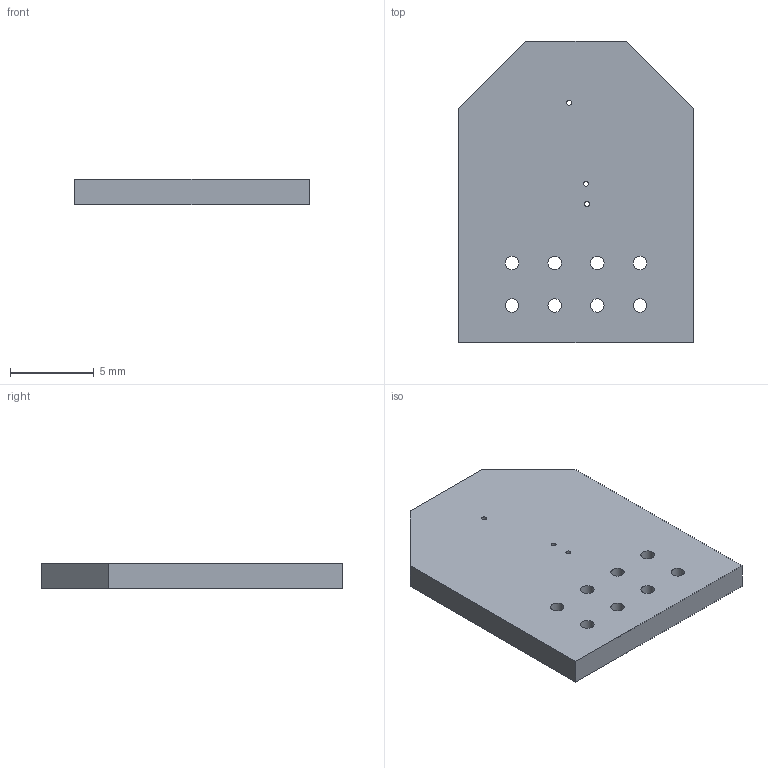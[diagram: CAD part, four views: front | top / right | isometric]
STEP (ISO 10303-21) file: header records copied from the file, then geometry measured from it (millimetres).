
FILE_DESCRIPTION(('KiCad electronic assembly'),'2;1');
FILE_NAME('Encoder-bare.step','2026-11-04T23:05:53',('Pcbnew'),('Kicad') ,'Open CASCADE STEP processor 7.9','KiCad to STEP converter','Unknown' );
FILE_SCHEMA(('AUTOMOTIVE_DESIGN { 1 0 10303 214 1 1 1 1 }'));
Length unit declared in the file: millimetre
Products named in the file (2): Encoder-bare 1; Encoder_PCB
Assembly tree (1 placements, depth 2):
  Encoder-bare 1
    Encoder_PCB
Bounding box: 14 x 18 x 1.51 mm (x, y, z)
Volume: 350 mm3; surface area: 587.7 mm2
Topology: 1 solids, 1 shells, 19 faces, 51 edges, 34 vertices
Faces by surface type: cylinder 11, plane 8
Full cylindrical faces by diameter (mm): 0.3 x3, 0.8 x8
Entity records: 688 total; most frequent: DIRECTION 115, CARTESIAN_POINT 106, ORIENTED_EDGE 102, EDGE_CURVE 51, AXIS2_PLACEMENT_3D 43, FACE_BOUND 41, EDGE_LOOP 41, VERTEX_POINT 34
